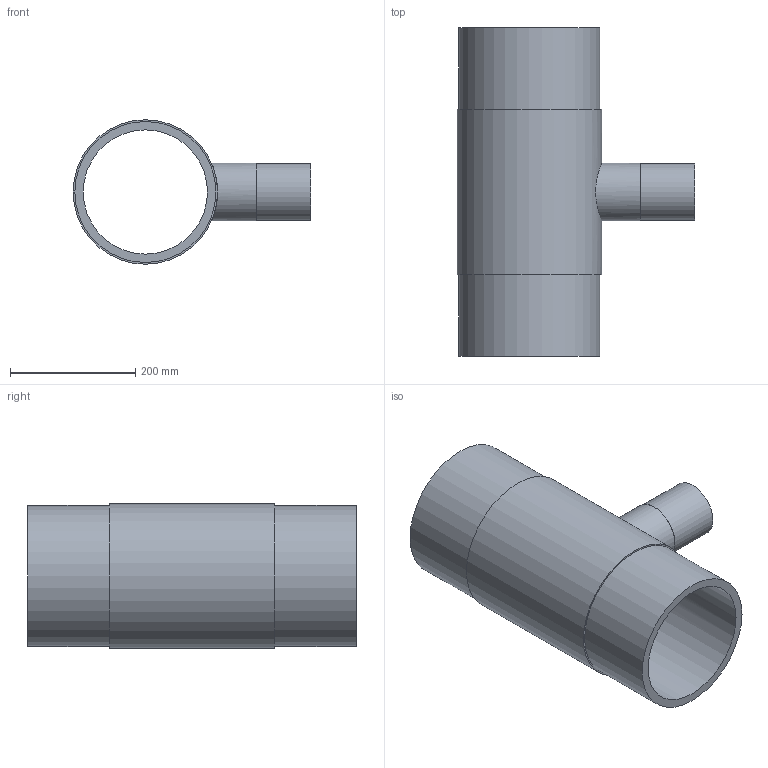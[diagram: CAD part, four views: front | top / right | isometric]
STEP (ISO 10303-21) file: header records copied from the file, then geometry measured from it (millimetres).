
FILE_DESCRIPTION(('Beschreibung'),'1');
FILE_NAME('V:/Ziel/25.20.01.063_red._SDR_17_PE100_225_090_225.STP', '2014-09-15T06:25:33',('Author'), ('Organization'), 'KCM Version 1.1.794.0', 'Kubotek KeyCreator', 'Authorization');
FILE_SCHEMA(('CONFIG_CONTROL_DESIGN'));
Length unit declared in the file: millimetre
Bounding box: 379.18 x 524 x 230.36 mm (x, y, z)
Volume: 5332769.8 mm3; surface area: 798581.1 mm2
Topology: 1 solids, 1 shells, 13 faces, 40 edges, 47 vertices
Faces by surface type: cylinder 7, plane 6
Full cylindrical faces by diameter (mm): 79.2 x1, 90 x1, 92.16 x1, 198.2 x1, 225 x2, 230.36 x1
Entity records: 750 total; most frequent: CARTESIAN_POINT 327, DIRECTION 77, ORIENTED_EDGE 48, AXIS2_PLACEMENT_3D 28, EDGE_CURVE 24, VECTOR 21, LINE 21, EDGE_LOOP 21
